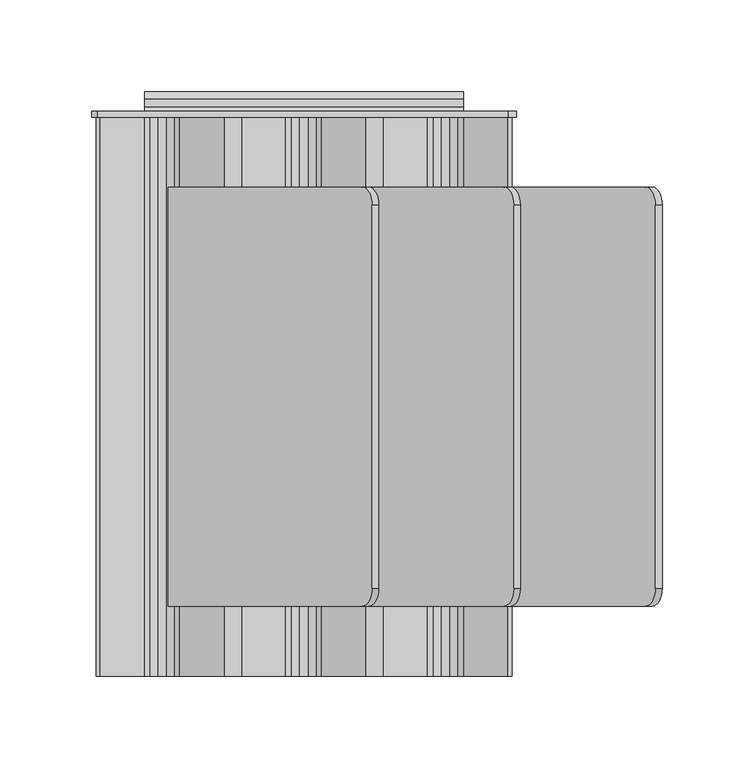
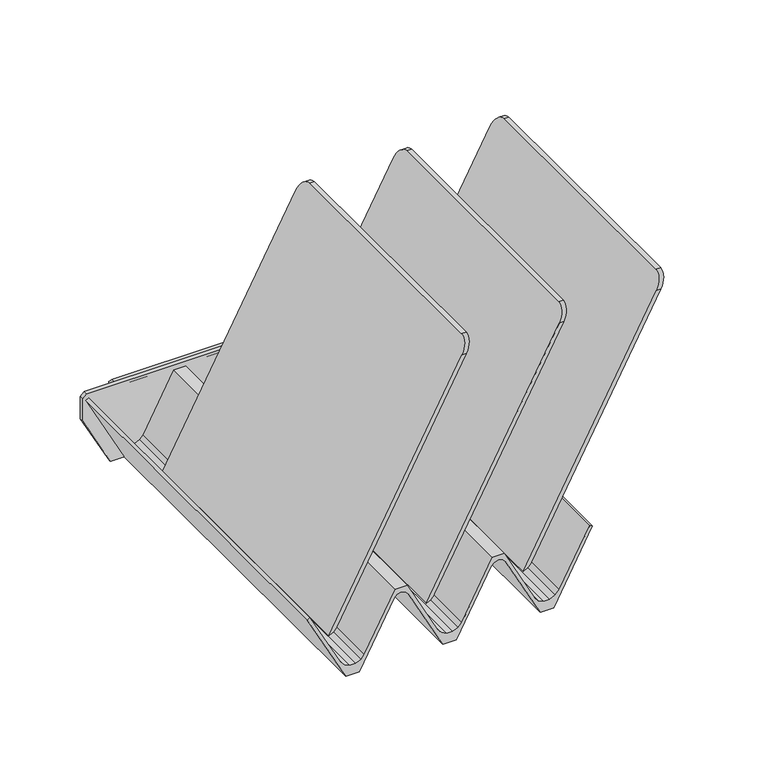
"""IFC4 building model written with IfcOpenShell, lengths in millimetres: furniture geometry."""

from ifc_helpers import new_model, si_unit, point, frame, frame_2d, origin, place, context, project, spatial, polyline, circle_curve, ellipse_curve, trimmed, segment, composite_curve, outline, extrude, source, transform, mapped, element, save
from ifc_brep_helpers import plane_surface, cylinder_surface, advanced_brep


def furniture_75fc3fe0(model_context):
    return source(origin(), model_context, "Body", "SolidModel", [
        advanced_brep(
        [(-78.5076305, -115.8875182, 793.75), (-74.9117341, -115.8875182, 793.75), (35.3237269, -115.8875182, 1001.0727434), (31.7278836, -115.8875182, 1001.0727434), (-74.9117341, 112.7124864, 793.75), (-78.5076305, 112.7124864, 793.75), (31.7278836, 112.7124864, 1001.0727434), (35.3237269, 112.7124864, 1001.0727434), (40.728424, 102.8883555, 1011.2375), (40.728424, -105.9830355, 1011.2375), (37.1325833, 102.8883555, 1011.2375), (37.1325833, -105.9830355, 1011.2375)],
        [
            (0, 1),
            (1, 2),
            (2, 3),
            (3, 0),
            (4, 5),
            (5, 6),
            (6, 7),
            (7, 4),
            (0, 5),
            (4, 1),
            (7, 8, ellipse_curve(frame((35.3237269, 102.5418246, 1001.0727434), z_axis=(0.8829475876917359, 0.0, -0.4694715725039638), x_axis=(-0.46947157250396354, 0.0, -0.8829475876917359)), 11.518987, 10.1706618)),
            (8, 9),
            (9, 2, ellipse_curve(frame((35.3237269, -105.7193418, 1001.0727434), z_axis=(0.8829475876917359, 0.0, -0.4694715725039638), x_axis=(-0.46947157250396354, 0.0, -0.8829475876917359)), 11.5161721, 10.1681764)),
            (8, 10),
            (10, 11),
            (11, 9),
            (3, 11, ellipse_curve(frame((31.7278836, -105.7193418, 1001.0727434), z_axis=(-0.8829474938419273, 0.0, 0.4694717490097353), x_axis=(-0.4694717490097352, 0.0, -0.8829474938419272)), 11.5161734, 10.1681764)),
            (10, 6, ellipse_curve(frame((31.7278836, 102.5418246, 1001.0727434), z_axis=(-0.8829474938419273, 0.0, 0.4694717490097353), x_axis=(-0.4694717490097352, 0.0, -0.8829474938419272)), 11.5189882, 10.1706618)),
        ],
        [
            plane_surface(frame((-78.5076305, -115.8875182, 793.75), z_axis=(0.0, -1.0, 0.0), x_axis=(1.0, 0.0, 0.0))),
            plane_surface(frame((-78.5076305, 112.7124864, 793.75), z_axis=(0.0, 1.0, 0.0), x_axis=(-1.0, 0.0, 0.0))),
            plane_surface(frame((-78.5076305, -115.8875182, 793.75), z_axis=(0.0, 0.0, -1.0), x_axis=(0.0, 1.0, 0.0))),
            plane_surface(frame((-74.9117341, -115.8875182, 793.75), z_axis=(0.8829475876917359, 0.0, -0.4694715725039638), x_axis=(0.0, 1.0, 0.0))),
            plane_surface(frame((40.728424, -115.8875182, 1011.2375), z_axis=(0.0, 0.0, 1.0), x_axis=(0.0, 1.0, 0.0))),
            plane_surface(frame((37.1325833, -115.8875182, 1011.2375), z_axis=(-0.8829474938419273, 0.0, 0.4694717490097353), x_axis=(0.0, 1.0, 0.0))),
            cylinder_surface(frame((0.0, 102.5418246, 1001.0727434), z_axis=(-1.0, 0.0, 0.0), x_axis=(0.0, 1.0, 0.0)), 10.1706618),
            cylinder_surface(frame((0.0, -105.7193418, 1001.0727434), z_axis=(-1.0, 0.0, 0.0), x_axis=(0.0, 1.0, 0.0)), 10.1681764),
        ],
        [
            (0, [[1, 2, 3, 4]]),
            (1, [[5, 6, 7, 8]]),
            (2, [[-1, 9, -5, 10]]),
            (3, [[-10, -8, 11, 12, 13, -2]]),
            (4, [[-12, 14, 15, 16]]),
            (5, [[-9, -4, 17, -15, 18, -6]]),
            (6, [[-7, -18, -14, -11]]),
            (7, [[-3, -13, -16, -17]]),
        ],
    ),
        advanced_brep(
        [(-0.9107932, -115.8875182, 793.75), (2.3550823, -115.8875182, 793.75), (112.5905464, -115.8875182, 1001.0727434), (109.0097063, -115.8875182, 1001.0727434), (2.3550823, 112.7124864, 793.75), (-0.9107932, 112.7124864, 793.75), (109.0097063, 112.7124864, 1001.0727434), (112.5905464, 112.7124864, 1001.0727434), (117.9952436, 102.8883555, 1011.2375), (117.9952436, -105.9830355, 1011.2375), (114.3989613, 102.8883555, 1011.2375), (114.3989613, -105.9830355, 1011.2375)],
        [
            (0, 1),
            (1, 2),
            (2, 3),
            (3, 0),
            (4, 5),
            (5, 6),
            (6, 7),
            (7, 4),
            (0, 5),
            (4, 1),
            (7, 8, ellipse_curve(frame((112.5905464, 102.5418246, 1001.0727434), z_axis=(0.882947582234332, 0.0, -0.46947158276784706), x_axis=(-0.46947158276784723, 0.0, -0.882947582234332)), 11.518987, 10.1706618)),
            (8, 9),
            (9, 2, ellipse_curve(frame((112.5905464, -105.7193418, 1001.0727434), z_axis=(0.882947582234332, 0.0, -0.46947158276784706), x_axis=(-0.46947158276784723, 0.0, -0.882947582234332)), 11.5161722, 10.1681764)),
            (8, 10),
            (10, 11),
            (11, 9),
            (3, 11, ellipse_curve(frame((109.0097063, -105.7193418, 1001.0727434), z_axis=(-0.88350333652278, 0.0, 0.46842486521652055), x_axis=(-0.46842486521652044, 0.0, -0.88350333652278)), 11.5089281, 10.1681764)),
            (10, 6, ellipse_curve(frame((109.0097063, 102.5418246, 1001.0727434), z_axis=(-0.88350333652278, 0.0, 0.46842486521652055), x_axis=(-0.46842486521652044, 0.0, -0.88350333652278)), 11.5117412, 10.1706618)),
        ],
        [
            plane_surface(frame((-78.5076305, -115.8875182, 793.75), z_axis=(0.0, -1.0, 0.0), x_axis=(1.0, 0.0, 0.0))),
            plane_surface(frame((-78.5076305, 112.7124864, 793.75), z_axis=(0.0, 1.0, 0.0), x_axis=(-1.0, 0.0, 0.0))),
            plane_surface(frame((-0.9107932, -115.8875182, 793.75), z_axis=(0.0, 0.0, -1.0), x_axis=(0.0, 1.0, 0.0))),
            plane_surface(frame((2.3550823, -115.8875182, 793.75), z_axis=(0.882947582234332, 0.0, -0.46947158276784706), x_axis=(0.0, 1.0, 0.0))),
            plane_surface(frame((117.9952436, -115.8875182, 1011.2375), z_axis=(0.0, 0.0, 1.0), x_axis=(0.0, 1.0, 0.0))),
            plane_surface(frame((114.3989613, -115.8875182, 1011.2375), z_axis=(-0.88350333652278, 0.0, 0.46842486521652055), x_axis=(0.0, 1.0, 0.0))),
            cylinder_surface(frame((0.0, 102.5418246, 1001.0727434), z_axis=(-1.0, 0.0, 0.0), x_axis=(0.0, 1.0, 0.0)), 10.1706618),
            cylinder_surface(frame((0.0, -105.7193418, 1001.0727434), z_axis=(-1.0, 0.0, 0.0), x_axis=(0.0, 1.0, 0.0)), 10.1681764),
        ],
        [
            (0, [[1, 2, 3, 4]]),
            (1, [[5, 6, 7, 8]]),
            (2, [[-1, 9, -5, 10]]),
            (3, [[-10, -8, 11, 12, 13, -2]]),
            (4, [[-12, 14, 15, 16]]),
            (5, [[-9, -4, 17, -15, 18, -6]]),
            (6, [[-7, -18, -14, -11]]),
            (7, [[-3, -13, -16, -17]]),
        ],
    ),
        advanced_brep(
        [(76.0259689, -115.8875182, 793.75), (79.7811739, -115.8875182, 793.75), (190.0166176, -115.8875182, 1001.0727434), (186.2614289, -115.8875182, 1001.0727434), (79.7811739, 112.7124864, 793.75), (76.0259689, 112.7124864, 793.75), (186.2614289, 112.7124864, 1001.0727434), (190.0166176, 112.7124864, 1001.0727434), (195.4213139, 102.8883555, 1011.2375), (195.4213139, -105.9830355, 1011.2375), (191.666126, 102.8883555, 1011.2375), (191.666126, -105.9830355, 1011.2375)],
        [
            (0, 1),
            (1, 2),
            (2, 3),
            (3, 0),
            (4, 5),
            (5, 6),
            (6, 7),
            (7, 4),
            (0, 5),
            (4, 1),
            (7, 8, ellipse_curve(frame((190.0166176, 102.5418246, 1001.0727434), z_axis=(0.8829476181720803, 0.0, -0.4694715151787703), x_axis=(-0.46947151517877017, 0.0, -0.8829476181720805)), 11.5189866, 10.1706618)),
            (8, 9),
            (9, 2, ellipse_curve(frame((190.0166176, -105.7193418, 1001.0727434), z_axis=(0.8829476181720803, 0.0, -0.4694715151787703), x_axis=(-0.46947151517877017, 0.0, -0.8829476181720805)), 11.5161717, 10.1681764)),
            (8, 10),
            (10, 11),
            (11, 9),
            (3, 11, ellipse_curve(frame((186.2614289, -105.7193418, 1001.0727434), z_axis=(-0.882947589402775, 0.0, 0.4694715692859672), x_axis=(-0.4694715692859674, 0.0, -0.8829475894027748)), 11.5161721, 10.1681764)),
            (10, 6, ellipse_curve(frame((186.2614289, 102.5418246, 1001.0727434), z_axis=(-0.882947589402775, 0.0, 0.4694715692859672), x_axis=(-0.4694715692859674, 0.0, -0.8829475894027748)), 11.5189869, 10.1706618)),
        ],
        [
            plane_surface(frame((-78.5076305, -115.8875182, 793.75), z_axis=(0.0, -1.0, 0.0), x_axis=(1.0, 0.0, 0.0))),
            plane_surface(frame((-78.5076305, 112.7124864, 793.75), z_axis=(0.0, 1.0, 0.0), x_axis=(-1.0, 0.0, 0.0))),
            plane_surface(frame((76.0259689, -115.8875182, 793.75), z_axis=(0.0, 0.0, -1.0), x_axis=(0.0, 1.0, 0.0))),
            plane_surface(frame((79.7811739, -115.8875182, 793.75), z_axis=(0.8829476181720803, 0.0, -0.4694715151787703), x_axis=(0.0, 1.0, 0.0))),
            plane_surface(frame((195.4213139, -115.8875182, 1011.2375), z_axis=(0.0, 0.0, 1.0), x_axis=(0.0, 1.0, 0.0))),
            plane_surface(frame((191.666126, -115.8875182, 1011.2375), z_axis=(-0.882947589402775, 0.0, 0.4694715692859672), x_axis=(0.0, 1.0, 0.0))),
            cylinder_surface(frame((0.0, 102.5418246, 1001.0727434), z_axis=(-1.0, 0.0, 0.0), x_axis=(0.0, 1.0, 0.0)), 10.1706618),
            cylinder_surface(frame((0.0, -105.7193418, 1001.0727434), z_axis=(-1.0, 0.0, 0.0), x_axis=(0.0, 1.0, 0.0)), 10.1681764),
        ],
        [
            (0, [[1, 2, 3, 4]]),
            (1, [[5, 6, 7, 8]]),
            (2, [[-1, 9, -5, 10]]),
            (3, [[-10, -8, 11, 12, 13, -2]]),
            (4, [[-12, 14, 15, 16]]),
            (5, [[-9, -4, 17, -15, 18, -6]]),
            (6, [[-7, -18, -14, -11]]),
            (7, [[-3, -13, -16, -17]]),
        ],
    ),
        extrude(outline(polyline([(851.9365504, -113.3404132), (793.75, -82.6180755), (793.75, -71.8286766), (846.2740623, -44.096121), (848.5406431, -41.9545616), (849.4523762, -38.676187), (848.5406431, -35.3978079), (846.0672571, -33.0608503), (793.75, -5.4374818), (793.75, 5.4381185), (846.2740614, 33.170679), (848.5406431, 35.3122394), (849.4523762, 38.5906094), (848.5406431, 41.8689885), (846.0114359, 44.2586883), (793.75, 71.9155202), (793.75, 82.7049229), (851.936546, 113.4272483), (853.0528432, 111.3130508), (807.6055096, 87.1482781), (803.9501541, 84.0519156), (801.9357104, 79.7054876), (801.9357104, 74.9149551), (803.9501541, 70.5685271), (807.7105361, 67.3831993), (853.1224984, 43.2968127), (853.1224984, 33.9240014), (807.1004275, 9.4536309), (803.9501541, 6.7851111), (801.9357104, 2.4386922), (801.9357104, -2.3518493), (804.3854746, -6.6982682), (807.9449621, -9.9738698), (853.1224984, -33.8274808), (853.1224984, -43.3428158), (807.1003747, -67.8132137), (803.9501541, -70.4816887), (801.9357104, -74.8281031), (801.9357104, -79.6186492), (803.9501541, -83.9650636), (807.6055262, -87.0614424), (853.122503, -111.0942793), (851.9365504, -113.3404132)])), frame((0.0, -153.9875, 0.0), z_axis=(0.0, 1.0, 0.0), x_axis=(0.0, 0.0, 1.0)), (0.0, 0.0, 1.0), 304.7999878),
        extrude(outline(polyline([(854.0749994, -115.844077), (835.4399607, -115.844077), (793.75, -93.8318941), (793.75, 93.918737), (835.4399607, 115.930929), (854.0749984, 115.930929), (857.2499985, 111.5932577), (857.2499985, -112.669078), (854.0749994, -115.844077)])), frame((0.0, 150.8124878, 0.0), z_axis=(0.0, 1.0, 0.0), x_axis=(0.0, 0.0, 1.0)), (0.0, 0.0, 1.0), 3.1750122),
        extrude(outline(composite_curve([segment(polyline([(164.6784774, 850.2612114), (164.6784774, 847.6834605)]), True, "CONTINUOUS"), segment(trimmed(circle_curve(frame_2d((162.7734784, 847.6834605)), 1.904999), [point((164.6784774, 847.6834605))], [point((160.8684793, 847.6834605))], False, "CARTESIAN"), True, "CONTINUOUS"), segment(polyline([(160.8684793, 847.6834605), (160.8684793, 850.2612114), (156.5435882, 850.2612114), (153.9875, 847.7051232), (153.9875, 857.2499985), (156.5435882, 854.0712113), (160.8684775, 854.0712113), (164.6784774, 850.2612114)]), True, "CONTINUOUS")], self_intersect=False)), frame((-87.0345642, 0.0, 0.0), z_axis=(1.0, 0.0, 0.0), x_axis=(0.0, 1.0, 0.0)), (0.0, 0.0, 1.0), 174.0691284),
    ])


if __name__ == "__main__":
    model = new_model("IFC4")
    model_context = context("Model", 3, world=origin())
    ifc_project = project(units=[si_unit("LENGTHUNIT", "METRE", prefix="MILLI")], contexts=[model_context])
    site = spatial("IfcSite", under=ifc_project)
    building = spatial("IfcBuilding", under=site)
    placement = place(None, origin())
    furniture_shape = furniture_75fc3fe0(model_context)
    element("IfcFurniture", 1, ObjectType="HermanMiller_ThrivePortfolio_Y7218_DiagonalTray : 8 1/2\"H x 12\"D x 13\"W", at=placement, inside=building, context=model_context, shape_type="MappedRepresentation", body=[
        mapped(furniture_shape, transform((0.0, 0.0, 0.0), x_axis=(1.0, 0.0, 0.0), y_axis=(0.0, 1.0, 0.0), z_axis=(0.0, 0.0, 1.0))),
    ])
    save(model, "model.ifc")
